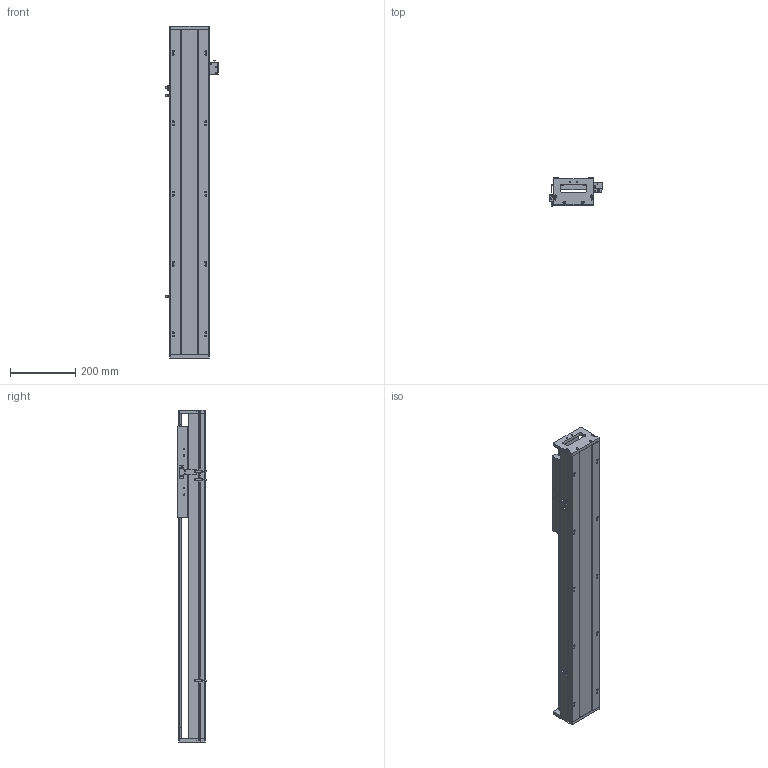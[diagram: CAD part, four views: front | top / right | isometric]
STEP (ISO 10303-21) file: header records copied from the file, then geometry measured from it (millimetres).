
FILE_DESCRIPTION (( 'STEP AP203' ), '1' );
FILE_NAME ('SKR12S-C2-S640（简）.STEP', '2022-09-26T03:22:27', ( '' ), ( '' ), 'SwSTEP 2.0', 'SolidWorks 2018', '' );
FILE_SCHEMA (( 'CONFIG_CONTROL_DESIGN' ));
Length unit declared in the file: millimetre
Products named in the file (8): 棠掑假蚾輸; SKR12滑台-280L（简）; EE-SX672; 覜茼え; SKR12耜啣; SIKO棠掑; SKR12S-C2-S640（简）; SKR12菁釱-C2-S640(潠)
Assembly tree (10 placements, depth 2):
  SKR12S-C2-S640（简）
    SKR12菁釱-C2-S640(潠)
    SKR12滑台-280L（简）
    SKR12耜啣  x2
    棠掑假蚾輸
    SIKO棠掑
    EE-SX672  x3
    覜茼え
Bounding box: 162.7 x 87.3 x 1020 mm (x, y, z)
Volume: 4944592.4 mm3; surface area: 803453.7 mm2
Topology: 11 solids, 11 shells, 958 faces, 2541 edges, 1607 vertices
Faces by surface type: cylinder 432, plane 396, cone 130
Entity records: 25807 total; most frequent: CARTESIAN_POINT 5055, DIRECTION 4297, ORIENTED_EDGE 4054, EDGE_CURVE 2027, AXIS2_PLACEMENT_3D 1585, VERTEX_POINT 1311, LINE 1127, VECTOR 1127
